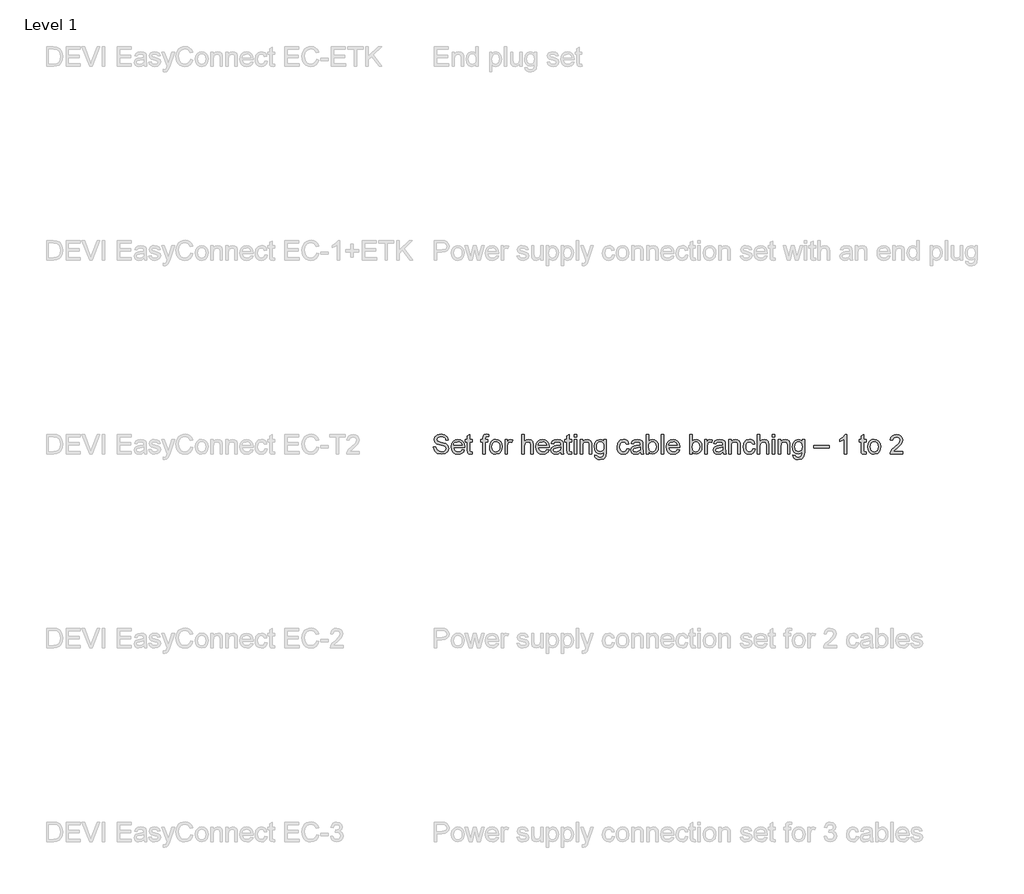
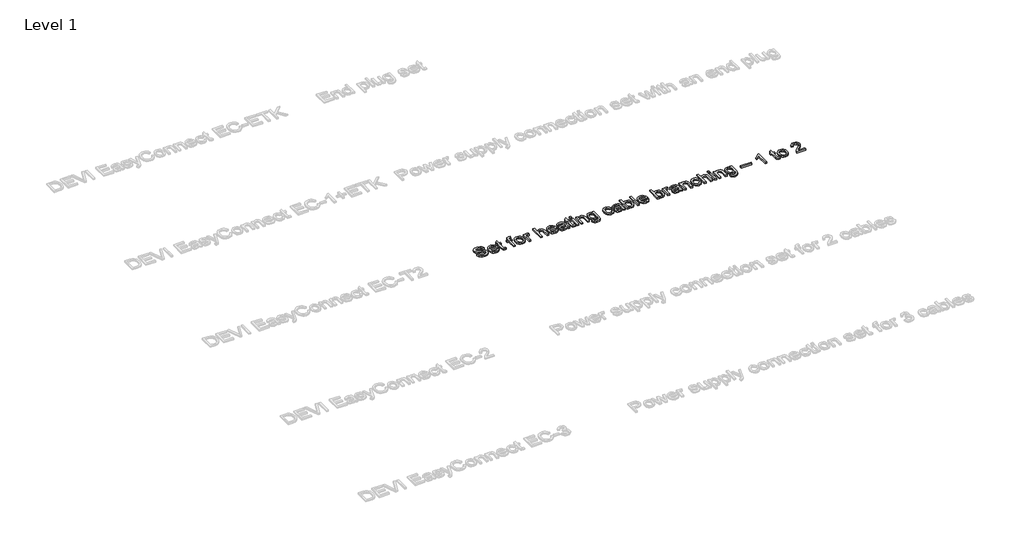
# One storey, part 6 of 11: 1 proxy.
"""IFC4 building model written with IfcOpenShell, lengths in millimetres."""

import ifcopenshell
import ifcopenshell.guid

model = None  # the IFC model being written
_history = None  # IfcOwnerHistory: only IFC2X3 demands one
_inside = {}  # id of a spatial element -> (the spatial element, [elements in it])
_under = {}  # id of a project, library or spatial element -> (it, [spatial elements below it])
_declared = {}  # id of a project -> (the project, [libraries it declares])
_typed = {}  # id of a type object -> (the type object, [elements of that type])
_made_of = {}  # id of a material, layer set ... -> (it, [elements and type objects made of it])


def new_model(schema):
    """Start an empty IFC model of exactly this schema.

    Asked for "IFC4X3", IfcOpenShell would pick the latest addendum, in which some entities
    have other attributes; the version numbers below select the first issue.
    IFC2X3 requires an IfcOwnerHistory on every rooted entity: one is made here for all.
    """
    global model, _history
    if schema == "IFC4X3":
        model = ifcopenshell.file(schema_version=(4, 3, 0, 0))
    else:
        model = ifcopenshell.file(schema=schema)
    _inside.clear()
    _under.clear()
    _declared.clear()
    _typed.clear()
    _made_of.clear()
    _history = None
    if model.schema == "IFC2X3":
        org = make("IfcOrganization", Name="unknown")
        user = make(
            "IfcPersonAndOrganization",
            ThePerson=make("IfcPerson", FamilyName="unknown"),
            TheOrganization=org,
        )
        app = make(
            "IfcApplication",
            ApplicationDeveloper=org,
            Version="unknown",
            ApplicationFullName="unknown",
            ApplicationIdentifier="unknown",
        )
        _history = make(
            "IfcOwnerHistory",
            OwningUser=user,
            OwningApplication=app,
            ChangeAction="ADDED",
            CreationDate=0,
        )
    return model


def make(cls, **values):
    """One entity of the class cls with the attributes given. An attribute that is None is left unset."""
    return model.create_entity(
        cls, **{name: value for name, value in values.items() if value is not None}
    )


def rooted(cls, **values):
    """An entity with a GlobalId (a new one), such as an element, a storey or a relation."""
    return make(cls, GlobalId=ifcopenshell.guid.new(), OwnerHistory=_history, **values)


def si_unit(unit_type, name, prefix=None):
    """IfcSIUnit, for example si_unit("LENGTHUNIT", "METRE", prefix="MILLI")."""
    return make("IfcSIUnit", UnitType=unit_type, Prefix=prefix, Name=name)


def assignment(units):
    """IfcUnitAssignment: the units of a project."""
    return None if units is None else make("IfcUnitAssignment", Units=units)


def point(xyz):
    """IfcCartesianPoint."""
    return None if xyz is None else make("IfcCartesianPoint", Coordinates=xyz)


def direction(xyz):
    """IfcDirection."""
    return None if xyz is None else make("IfcDirection", DirectionRatios=xyz)


def frame(location, z_axis=None, x_axis=None):
    """IfcAxis2Placement3D, a coordinate frame: its origin and axes. An axis left out is left unset."""
    return make(
        "IfcAxis2Placement3D",
        Location=point(location),
        Axis=direction(z_axis),
        RefDirection=direction(x_axis),
    )


def origin():
    """The frame at (0, 0, 0) with its axes left unset."""
    return frame((0.0, 0.0, 0.0))


def origin_with_axes():
    """The frame at (0, 0, 0) with the z axis (0, 0, 1) and the x axis (1, 0, 0) written out."""
    return frame((0.0, 0.0, 0.0), z_axis=(0.0, 0.0, 1.0), x_axis=(1.0, 0.0, 0.0))


def place(relative_to, where):
    """IfcLocalPlacement: puts the frame where relative to a parent placement (None: the world)."""
    return make(
        "IfcLocalPlacement", PlacementRelTo=relative_to, RelativePlacement=where
    )


def context(
    kind, dimensions, precision=None, world=None, true_north=None, identifier=None
):
    """IfcGeometricRepresentationContext, for example the 3D "Model" context."""
    return make(
        "IfcGeometricRepresentationContext",
        ContextIdentifier=identifier,
        ContextType=kind,
        CoordinateSpaceDimension=dimensions,
        Precision=precision,
        WorldCoordinateSystem=world,
        TrueNorth=true_north,
    )


def project(units=None, contexts=None):
    """IfcProject with its units and contexts."""
    return rooted(
        "IfcProject",
        Name="project",
        RepresentationContexts=contexts,
        UnitsInContext=assignment(units),
    )


def spatial(cls, under=None, at=None, **own):
    """A site, building, storey or space (cls), placed at a placement, below another one or the project."""
    s = rooted(cls, ObjectPlacement=at, **own)
    if under is not None:
        _under.setdefault(under.id(), (under, []))[1].append(s)
    return s


def polyline(points):
    """IfcPolyline through the points."""
    return make("IfcPolyline", Points=[point(p) for p in points])


def outline(outer, holes=None, kind="AREA"):
    """IfcArbitraryClosedProfileDef: a profile drawn as a closed curve; with holes, ...WithVoids."""
    if holes is None:
        return make("IfcArbitraryClosedProfileDef", ProfileType=kind, OuterCurve=outer)
    return make(
        "IfcArbitraryProfileDefWithVoids",
        ProfileType=kind,
        OuterCurve=outer,
        InnerCurves=holes,
    )


def extrude(swept, where, along, depth):
    """IfcExtrudedAreaSolid: the profile swept, set in the frame where, extruded along a direction by depth."""
    return make(
        "IfcExtrudedAreaSolid",
        SweptArea=swept,
        Position=where,
        ExtrudedDirection=direction(along),
        Depth=depth,
    )


def shape(context_of_items, identifier, shape_type, items):
    """IfcShapeRepresentation: the items that make up one representation, for example the "Body"."""
    return make(
        "IfcShapeRepresentation",
        ContextOfItems=context_of_items,
        RepresentationIdentifier=identifier,
        RepresentationType=shape_type,
        Items=items,
    )


def made_of(thing, what):
    """Note that an element or type object is made of a material, layer set ...; save() writes the relation."""
    if what is not None:
        _made_of.setdefault(what.id(), (what, []))[1].append(thing)
    return thing


def element(
    cls,
    number,
    at=None,
    inside=None,
    cuts=None,
    type_object=None,
    material=None,
    context=None,
    identifier="Body",
    shape_type=None,
    held_by="IfcProductDefinitionShape",
    body=None,
    shapes=None,
    **own,
):
    """One element of the class cls, such as IfcWall. Its Tag is "e" and its number.

    at: its placement. inside: the storey or other place that contains it. cuts: it is an
    opening in that element (IfcRelVoidsElement). A single representation is given by context,
    identifier, shape_type and body (its items); several are given by shapes. held_by: the class
    of the entity that holds the representations. save() writes the other relations.
    """
    e = rooted(cls, Tag="e%d" % number, ObjectPlacement=at, **own)
    if body is not None:
        shapes = [shape(context, identifier, shape_type, body)]
    if shapes is not None:
        e.Representation = make(held_by, Representations=shapes)
    if inside is not None:
        _inside.setdefault(inside.id(), (inside, []))[1].append(e)
    if cuts is not None:
        rooted(
            "IfcRelVoidsElement", RelatingBuildingElement=cuts, RelatedOpeningElement=e
        )
    if type_object is not None:
        _typed.setdefault(type_object.id(), (type_object, []))[1].append(e)
    return made_of(e, material)


def aggregate(whole, parts):
    """IfcRelAggregates: a whole, such as a stair, and the parts it consists of."""
    return rooted("IfcRelAggregates", RelatingObject=whole, RelatedObjects=parts)


def save(model, path):
    """Write the relations noted so far, then the file.

    IfcRelAggregates (storeys below a building ...), IfcRelContainedInSpatialStructure (elements
    in a storey), IfcRelDefinesByType, IfcRelAssociatesMaterial and IfcRelDeclares: one each for
    every whole, place, type object, material and project.
    """
    for whole, parts in _under.values():
        aggregate(whole, parts)
    for where, things in _inside.values():
        rooted(
            "IfcRelContainedInSpatialStructure",
            RelatedElements=things,
            RelatingStructure=where,
        )
    for kind, things in _typed.values():
        rooted("IfcRelDefinesByType", RelatedObjects=things, RelatingType=kind)
    for what, things in _made_of.values():
        rooted("IfcRelAssociatesMaterial", RelatedObjects=things, RelatingMaterial=what)
    for by, libraries in _declared.values():
        rooted("IfcRelDeclares", RelatingContext=by, RelatedDefinitions=libraries)
    model.write(path)


model = new_model("IFC4")

# Units and contexts
model_context = context("Model", 3, world=origin())
ifc_project = project(units=[si_unit("LENGTHUNIT", "METRE", prefix="MILLI")], contexts=[model_context])

# Site, building, storey
site = spatial("IfcSite", under=ifc_project)
building = spatial("IfcBuilding", under=site)
storey = spatial("IfcBuildingStorey", under=building, Name="Level 1", Elevation=0.0)

# Proxy
placement = place(None, origin())
element("IfcBuildingElementProxy", 1, Name="100mm Arial", ObjectType="100mm Arial", at=placement, inside=storey, context=model_context, shape_type="SweptSolid", body=[
    extrude(outline(polyline([(4540.2455858, 2551.2660062), (4552.8026246, 2551.2660062), (4556.8493265, 2538.6967047), (4566.7330895, 2530.7504536), (4581.7917258, 2527.7215585), (4594.9128503, 2530.0146896), (4603.3863989, 2536.3177345), (4606.1700394, 2544.7422322), (4604.0853747, 2552.5781187), (4595.5505124, 2558.2802896), (4577.2667773, 2563.0750183), (4557.5850905, 2569.2676985), (4546.9042499, 2578.6119012), (4543.3848455, 2591.0953636), (4547.7381158, 2605.3078713), (4560.4545701, 2615.3387871), (4579.069399, 2618.7600896), (4598.9350268, 2615.1793715), (4612.1787786, 2604.6579465), (4617.1574483, 2588.9371225), (4604.6004095, 2588.9371225), (4602.2950157, 2596.4296525), (4597.4880243, 2601.8375178), (4579.5599084, 2606.2030508), (4561.5827415, 2601.8865688), (4555.9418843, 2591.4632456), (4559.9395353, 2582.756705), (4580.4428252, 2575.7424216), (4602.6628977, 2569.4393768), (4614.8152662, 2559.2613083), (4618.7270781, 2545.0610632), (4614.226655, 2530.0392151), (4601.2772088, 2519.0763316), (4582.2822351, 2515.1645198), (4559.8536962, 2519.3829), (4545.6657139, 2532.0870915), (4540.2455858, 2551.2660062)])), origin_with_axes(), (0.0, 0.0, 1.0), 10.0),
    extrude(outline(polyline([(4687.6436386, 2538.7089675), (4699.9554227, 2537.1393376), (4695.5193789, 2527.86258), (4688.4407162, 2520.9280044), (4678.87885, 2516.6053909), (4666.9931959, 2515.1645198), (4652.259522, 2517.6507889), (4640.9226252, 2525.1095964), (4633.693744, 2537.0565642), (4631.2841169, 2553.0073143), (4633.7182694, 2569.4945591), (4641.020727, 2581.8247373), (4652.2043397, 2589.513471), (4666.2819574, 2592.0763822), (4679.9211823, 2589.5196024), (4690.8196864, 2581.8492628), (4697.9657942, 2569.54361), (4700.3478301, 2553.0808907), (4700.2742537, 2549.6963764), (4643.8411557, 2549.6963764), (4646.0147251, 2540.2969914), (4651.0639055, 2533.3869413), (4658.3510347, 2529.1379042), (4667.2384506, 2527.7215585), (4679.5502347, 2530.3457834), (4687.6436386, 2538.7089675)]), holes=[polyline([(4643.8411557, 2562.2534151), (4687.7907914, 2562.2534151), (4682.7630707, 2573.6332315), (4675.442219, 2578.0478155), (4666.2329064, 2579.5193435), (4650.7695999, 2574.8227166), (4645.9043605, 2569.3320779), (4643.8411557, 2562.2534151)])]), origin_with_axes(), (0.0, 0.0, 1.0), 10.0),
    extrude(outline(polyline([(4739.5885763, 2527.2065237), (4741.1582061, 2516.3662676), (4731.7649525, 2515.1645198), (4721.2435274, 2517.2491844), (4715.9950776, 2522.7183634), (4714.4744987, 2536.9676593), (4714.4744987, 2577.9497136), (4705.0567197, 2577.9497136), (4705.0567197, 2590.5067524), (4714.4744987, 2590.5067524), (4714.4744987, 2608.4348683), (4727.0315375, 2615.8170336), (4727.0315375, 2590.5067524), (4739.5885763, 2590.5067524), (4739.5885763, 2577.9497136), (4727.0315375, 2577.9497136), (4727.0315375, 2537.3355413), (4727.6937251, 2530.8608182), (4729.8397034, 2528.5676871), (4734.1193973, 2527.7215585), (4739.5885763, 2527.2065237)])), origin_with_axes(), (0.0, 0.0, 1.0), 10.0),
    extrude(outline(polyline([(4794.5256209, 2516.7341496), (4794.5256209, 2577.9497136), (4783.538212, 2577.9497136), (4783.538212, 2590.5067524), (4794.5256209, 2590.5067524), (4794.5256209, 2597.9379687), (4795.8499961, 2608.4103428), (4802.2756682, 2615.89061), (4814.9308089, 2618.7600896), (4826.3842017, 2617.3866635), (4824.5447917, 2605.6144396), (4817.3097791, 2606.2030508), (4809.4003162, 2604.1183862), (4807.0826597, 2596.3438134), (4807.0826597, 2590.5067524), (4821.2093283, 2590.5067524), (4821.2093283, 2577.9497136), (4807.0826597, 2577.9497136), (4807.0826597, 2516.7341496), (4794.5256209, 2516.7341496)])), origin_with_axes(), (0.0, 0.0, 1.0), 10.0),
    extrude(outline(polyline([(4829.0574775, 2553.620451), (4831.7736729, 2571.4075455), (4839.9222591, 2583.9094019), (4849.989963, 2590.0346371), (4862.0442297, 2592.0763822), (4875.2358649, 2589.5901131), (4885.7726184, 2582.1313056), (4892.6796029, 2570.2885711), (4894.981931, 2554.6505206), (4890.9107036, 2532.3078207), (4879.0526406, 2519.6649428), (4862.0442297, 2515.1645198), (4848.693179, 2517.6415919), (4838.1686882, 2525.0728082), (4831.3352802, 2537.1638631), (4829.0574775, 2553.620451)]), holes=[polyline([(4841.6145163, 2553.6449765), (4843.0676501, 2542.2804885), (4847.4270518, 2534.1840189), (4853.987614, 2529.3371736), (4862.0442297, 2527.7215585), (4870.0640572, 2529.3463707), (4876.6123567, 2534.2208071), (4880.9717584, 2542.4245756), (4882.4248923, 2554.0373839), (4880.9625613, 2565.0707781), (4876.5755685, 2573.0568831), (4870.018072, 2577.9037284), (4862.0442297, 2579.5193435), (4853.987614, 2577.9098597), (4847.4270518, 2573.0814085), (4843.0676501, 2565.0033331), (4841.6145163, 2553.6449765)])]), origin_with_axes(), (0.0, 0.0, 1.0), 10.0),
    extrude(outline(polyline([(4909.1085996, 2516.7341496), (4909.1085996, 2590.5067524), (4920.0960086, 2590.5067524), (4920.0960086, 2579.5929199), (4927.8951069, 2589.6483611), (4935.7432561, 2592.0763822), (4948.3493458, 2588.2013585), (4944.1554911, 2576.9441695), (4935.3263232, 2579.5193435), (4928.2262007, 2577.0422714), (4923.7012521, 2570.1751408), (4921.6656384, 2555.5089119), (4921.6656384, 2516.7341496), (4909.1085996, 2516.7341496)])), origin_with_axes(), (0.0, 0.0, 1.0), 10.0),
    extrude(outline(polyline([(4995.4382412, 2516.7341496), (4995.4382412, 2617.1904598), (5007.99528, 2617.1904598), (5007.99528, 2580.2551074), (5017.7870724, 2589.1210635), (5029.8474705, 2592.0763822), (5043.9496136, 2588.8512834), (5052.5090014, 2579.9362764), (5055.0841753, 2563.4306375), (5055.0841753, 2516.7341496), (5042.5271366, 2516.7341496), (5042.5271366, 2562.1307878), (5038.5294856, 2575.3745396), (5027.1987201, 2579.5193435), (5016.910287, 2576.7234403), (5010.0431564, 2569.1450712), (5007.99528, 2555.9258448), (5007.99528, 2516.7341496), (4995.4382412, 2516.7341496)])), origin_with_axes(), (0.0, 0.0, 1.0), 10.0),
    extrude(outline(polyline([(5124.0007358, 2538.7089675), (5136.3125199, 2537.1393376), (5131.8764761, 2527.86258), (5124.7978134, 2520.9280044), (5115.2359472, 2516.6053909), (5103.3502931, 2515.1645198), (5088.6166192, 2517.6507889), (5077.2797224, 2525.1095964), (5070.0508412, 2537.0565642), (5067.6412141, 2553.0073143), (5070.0753666, 2569.4945591), (5077.3778242, 2581.8247373), (5088.5614369, 2589.513471), (5102.6390546, 2592.0763822), (5116.2782795, 2589.5196024), (5127.1767837, 2581.8492628), (5134.3228914, 2569.54361), (5136.7049273, 2553.0808907), (5136.6313509, 2549.6963764), (5080.1982529, 2549.6963764), (5082.3718223, 2540.2969914), (5087.4210027, 2533.3869413), (5094.7081319, 2529.1379042), (5103.5955478, 2527.7215585), (5115.9073319, 2530.3457834), (5124.0007358, 2538.7089675)]), holes=[polyline([(5080.1982529, 2562.2534151), (5124.1478886, 2562.2534151), (5119.120168, 2573.6332315), (5111.7993163, 2578.0478155), (5102.5900036, 2579.5193435), (5087.1266971, 2574.8227166), (5082.2614577, 2569.3320779), (5080.1982529, 2562.2534151)])]), origin_with_axes(), (0.0, 0.0, 1.0), 10.0),
    extrude(outline(polyline([(5196.3508615, 2526.1519287), (5184.1739674, 2517.6415919), (5170.7217492, 2515.1645198), (5160.2279152, 2516.6544418), (5152.4870649, 2521.1242081), (5147.713796, 2527.9116309), (5146.1227064, 2536.3545227), (5148.5262021, 2546.2873366), (5154.8415097, 2553.4978237), (5163.6338894, 2557.618102), (5174.498671, 2559.5065629), (5196.2772851, 2563.823045), (5196.3508615, 2566.6189482), (5192.8927707, 2575.8895744), (5179.0113568, 2579.5193435), (5166.3071652, 2577.103585), (5160.249375, 2568.5319345), (5147.6923363, 2570.1015644), (5153.124727, 2582.3642975), (5164.063085, 2589.5502592), (5180.6300376, 2592.0763822), (5195.8480894, 2589.8445648), (5204.4442654, 2584.2404957), (5208.2947636, 2575.7178962), (5208.9079003, 2564.7304872), (5208.9079003, 2549.1077652), (5209.5455624, 2527.2923629), (5212.0471599, 2516.7341496), (5199.4901212, 2516.7341496), (5196.3508615, 2526.1519287)]), holes=[polyline([(5196.3508615, 2551.2660062), (5176.0928263, 2547.415508), (5165.2893584, 2545.3798943), (5160.3965278, 2542.0689563), (5158.6797452, 2537.2374395), (5162.4198788, 2530.4438853), (5173.395025, 2527.7215585), (5186.0992166, 2530.7259282), (5194.2907223, 2537.9977289), (5196.2772851, 2547.7098136), (5196.3508615, 2551.2660062)])]), origin_with_axes(), (0.0, 0.0, 1.0), 10.0),
    extrude(outline(polyline([(5252.8575359, 2527.2065237), (5254.4271658, 2516.3662676), (5245.0339122, 2515.1645198), (5234.5124871, 2517.2491844), (5229.2640373, 2522.7183634), (5227.7434584, 2536.9676593), (5227.7434584, 2577.9497136), (5218.3256793, 2577.9497136), (5218.3256793, 2590.5067524), (5227.7434584, 2590.5067524), (5227.7434584, 2608.4348683), (5240.3004972, 2615.8170336), (5240.3004972, 2590.5067524), (5252.8575359, 2590.5067524), (5252.8575359, 2577.9497136), (5240.3004972, 2577.9497136), (5240.3004972, 2537.3355413), (5240.9626848, 2530.8608182), (5243.1086631, 2528.5676871), (5247.3883569, 2527.7215585), (5252.8575359, 2527.2065237)])), origin_with_axes(), (0.0, 0.0, 1.0), 10.0),
    extrude(outline(polyline([(5265.4145747, 2604.633421), (5265.4145747, 2617.1904598), (5277.9716135, 2617.1904598), (5277.9716135, 2604.633421), (5265.4145747, 2604.633421)])), origin_with_axes(), (0.0, 0.0, 1.0), 10.0),
    extrude(outline(polyline([(5265.4145747, 2516.7341496), (5265.4145747, 2590.5067524), (5277.9716135, 2590.5067524), (5277.9716135, 2516.7341496), (5265.4145747, 2516.7341496)])), origin_with_axes(), (0.0, 0.0, 1.0), 10.0),
    extrude(outline(polyline([(5296.8071716, 2516.7341496), (5296.8071716, 2590.5067524), (5309.3642104, 2590.5067524), (5309.3642104, 2580.2060565), (5318.9659305, 2589.1088008), (5332.0747922, 2592.0763822), (5343.9328552, 2589.6851493), (5352.0262591, 2583.4066299), (5355.7909182, 2574.1727918), (5356.4531058, 2562.0326859), (5356.4531058, 2516.7341496), (5343.896067, 2516.7341496), (5343.896067, 2560.3404288), (5342.4490645, 2571.450465), (5337.3355048, 2577.3243142), (5328.7148033, 2579.5193435), (5315.0909068, 2574.5897247), (5310.7958845, 2567.4466826), (5309.3642104, 2555.8767939), (5309.3642104, 2516.7341496), (5296.8071716, 2516.7341496)])), origin_with_axes(), (0.0, 0.0, 1.0), 10.0),
    extrude(outline(polyline([(5370.5797744, 2510.4556302), (5383.1368132, 2508.8860004), (5387.2080406, 2502.2641245), (5399.3971974, 2499.4682213), (5412.2485417, 2502.6320065), (5418.3799083, 2511.5102253), (5419.2382996, 2526.1519287), (5410.396869, 2519.0885944), (5399.6179266, 2516.7341496), (5386.671546, 2519.4748705), (5377.0177093, 2527.6970331), (5371.0120357, 2539.7512998), (5369.0101446, 2553.988333), (5372.6031254, 2573.4492905), (5383.0019231, 2587.2203399), (5399.0047899, 2592.0763822), (5410.2067966, 2589.32953), (5419.2382996, 2581.0889733), (5419.2382996, 2590.5067524), (5431.7953384, 2590.5067524), (5431.7953384, 2526.8141163), (5428.3617731, 2502.42354), (5417.4847288, 2491.0805118), (5399.1519427, 2486.9111825), (5387.4686237, 2488.3796448), (5378.2685081, 2492.7850317), (5372.3670678, 2500.1396059), (5370.5797744, 2510.4556302)]), holes=[polyline([(5381.5671833, 2554.8467243), (5382.9068869, 2543.3289522), (5386.9259977, 2535.4102922), (5392.9684595, 2530.8209643), (5400.378216, 2529.2911884), (5407.7327902, 2530.8117673), (5413.8059088, 2535.373504), (5417.8802019, 2543.1909964), (5419.2382996, 2554.4788423), (5417.840348, 2565.3650837), (5413.6464933, 2573.2040359), (5407.4844699, 2577.9405166), (5400.1820123, 2579.5193435), (5393.0113791, 2577.965042), (5386.9995741, 2573.3021377), (5382.925281, 2565.5796815), (5381.5671833, 2554.8467243)])]), origin_with_axes(), (0.0, 0.0, 1.0), 10.0),
    extrude(outline(polyline([(5536.9605381, 2543.417857), (5549.5175769, 2541.8482271), (5546.0165665, 2530.6799429), (5539.4376102, 2522.2401168), (5530.3999758, 2516.933419), (5519.5229315, 2515.1645198), (5506.1657494, 2517.6323948), (5495.7209664, 2525.03602), (5488.9795289, 2537.0504328), (5486.732383, 2553.3506709), (5490.5706185, 2574.20958), (5502.2692659, 2587.6127473), (5519.3512532, 2592.0763822), (5529.9615831, 2590.5435406), (5538.4443288, 2585.9450156), (5544.5297101, 2578.5260621), (5547.947947, 2568.5319345), (5535.3909082, 2566.9623047), (5529.56611, 2576.367821), (5519.4493551, 2579.5193435), (5511.3344914, 2577.9681077), (5504.8934908, 2573.3144005), (5500.690439, 2565.3068357), (5499.2894218, 2553.6940274), (5500.6597822, 2541.9248692), (5504.7708635, 2533.8897133), (5511.0953681, 2529.2635972), (5519.1059986, 2527.7215585), (5530.9395361, 2531.5720567), (5536.9605381, 2543.417857)])), origin_with_axes(), (0.0, 0.0, 1.0), 10.0),
    extrude(outline(polyline([(5607.5938812, 2526.1519287), (5595.4169871, 2517.6415919), (5581.9647688, 2515.1645198), (5571.4709349, 2516.6544418), (5563.7300846, 2521.1242081), (5558.9568157, 2527.9116309), (5557.3657261, 2536.3545227), (5559.7692218, 2546.2873366), (5566.0845294, 2553.4978237), (5574.8769091, 2557.618102), (5585.7416906, 2559.5065629), (5607.5203048, 2563.823045), (5607.5938812, 2566.6189482), (5604.1357904, 2575.8895744), (5590.2543765, 2579.5193435), (5577.5501849, 2577.103585), (5571.4923947, 2568.5319345), (5558.9353559, 2570.1015644), (5564.3677467, 2582.3642975), (5575.3061047, 2589.5502592), (5591.8730572, 2592.0763822), (5607.0911091, 2589.8445648), (5615.6872851, 2584.2404957), (5619.5377833, 2575.7178962), (5620.1509199, 2564.7304872), (5620.1509199, 2549.1077652), (5620.7885821, 2527.2923629), (5623.2901796, 2516.7341496), (5610.7331408, 2516.7341496), (5607.5938812, 2526.1519287)]), holes=[polyline([(5607.5938812, 2551.2660062), (5587.335846, 2547.415508), (5576.532378, 2545.3798943), (5571.6395475, 2542.0689563), (5569.9227649, 2537.2374395), (5573.6628985, 2530.4438853), (5584.6380447, 2527.7215585), (5597.3422362, 2530.7259282), (5605.533742, 2537.9977289), (5607.5203048, 2547.7098136), (5607.5938812, 2551.2660062)])]), origin_with_axes(), (0.0, 0.0, 1.0), 10.0),
    extrude(outline(polyline([(5649.973887, 2516.7341496), (5637.4168482, 2516.7341496), (5637.4168482, 2617.1904598), (5649.973887, 2617.1904598), (5649.973887, 2579.9362764), (5658.7662667, 2589.0413558), (5669.6923619, 2592.0763822), (5682.2739262, 2589.3417927), (5692.0350618, 2581.653059), (5698.0315383, 2569.6968942), (5700.2020421, 2554.724097), (5697.9548962, 2537.9609407), (5691.2134587, 2525.4897411), (5681.3204987, 2517.7458251), (5669.6187855, 2515.1645198), (5658.453567, 2518.4938518), (5649.973887, 2528.481848), (5649.973887, 2516.7341496)]), holes=[polyline([(5649.973887, 2554.1354858), (5653.4074523, 2536.5752519), (5659.9864086, 2529.9349819), (5668.539665, 2527.7215585), (5675.7869403, 2529.352502), (5681.9796206, 2534.2453326), (5686.2286576, 2542.3693933), (5687.6450033, 2553.6940274), (5686.2869056, 2565.1842084), (5682.2126125, 2573.2162986), (5676.2130703, 2577.9435822), (5669.0792253, 2579.5193435), (5661.83195, 2577.8883999), (5655.6392697, 2572.9955694), (5651.3902327, 2565.0186615), (5649.973887, 2554.1354858)])]), origin_with_axes(), (0.0, 0.0, 1.0), 10.0),
    extrude(outline(polyline([(5714.3287107, 2516.7341496), (5714.3287107, 2617.1904598), (5726.8857495, 2617.1904598), (5726.8857495, 2516.7341496), (5714.3287107, 2516.7341496)])), origin_with_axes(), (0.0, 0.0, 1.0), 10.0),
    extrude(outline(polyline([(5797.3719397, 2538.7089675), (5809.6837238, 2537.1393376), (5805.2476801, 2527.86258), (5798.1690174, 2520.9280044), (5788.6071512, 2516.6053909), (5776.7214971, 2515.1645198), (5761.9878232, 2517.6507889), (5750.6509263, 2525.1095964), (5743.4220451, 2537.0565642), (5741.0124181, 2553.0073143), (5743.4465706, 2569.4945591), (5750.7490282, 2581.8247373), (5761.9326409, 2589.513471), (5776.0102585, 2592.0763822), (5789.6494835, 2589.5196024), (5800.5479876, 2581.8492628), (5807.6940954, 2569.54361), (5810.0761313, 2553.0808907), (5810.0025549, 2549.6963764), (5753.5694568, 2549.6963764), (5755.7430263, 2540.2969914), (5760.7922067, 2533.3869413), (5768.0793359, 2529.1379042), (5776.9667517, 2527.7215585), (5789.2785358, 2530.3457834), (5797.3719397, 2538.7089675)]), holes=[polyline([(5753.5694568, 2562.2534151), (5797.5190925, 2562.2534151), (5792.4913719, 2573.6332315), (5785.1705202, 2578.0478155), (5775.9612076, 2579.5193435), (5760.4979011, 2574.8227166), (5755.6326617, 2569.3320779), (5753.5694568, 2562.2534151)])]), origin_with_axes(), (0.0, 0.0, 1.0), 10.0),
    extrude(outline(polyline([(5874.430955, 2516.7341496), (5861.8739162, 2516.7341496), (5861.8739162, 2617.1904598), (5874.430955, 2617.1904598), (5874.430955, 2579.9362764), (5883.2233347, 2589.0413558), (5894.1494299, 2592.0763822), (5906.7309942, 2589.3417927), (5916.4921298, 2581.653059), (5922.4886063, 2569.6968942), (5924.6591101, 2554.724097), (5922.4119642, 2537.9609407), (5915.6705267, 2525.4897411), (5905.7775667, 2517.7458251), (5894.0758535, 2515.1645198), (5882.910635, 2518.4938518), (5874.430955, 2528.481848), (5874.430955, 2516.7341496)]), holes=[polyline([(5874.430955, 2554.1354858), (5877.8645203, 2536.5752519), (5884.4434766, 2529.9349819), (5892.996733, 2527.7215585), (5900.2440083, 2529.352502), (5906.4366886, 2534.2453326), (5910.6857256, 2542.3693933), (5912.1020713, 2553.6940274), (5910.7439736, 2565.1842084), (5906.6696805, 2573.2162986), (5900.6701383, 2577.9435822), (5893.5362933, 2579.5193435), (5886.289018, 2577.8883999), (5880.0963377, 2572.9955694), (5875.8473007, 2565.0186615), (5874.430955, 2554.1354858)])]), origin_with_axes(), (0.0, 0.0, 1.0), 10.0),
    extrude(outline(polyline([(5938.7857787, 2516.7341496), (5938.7857787, 2590.5067524), (5949.7731876, 2590.5067524), (5949.7731876, 2579.5929199), (5957.5722859, 2589.6483611), (5965.4204351, 2592.0763822), (5978.0265248, 2588.2013585), (5973.8326701, 2576.9441695), (5965.0035022, 2579.5193435), (5957.9033797, 2577.0422714), (5953.3784312, 2570.1751408), (5951.3428175, 2555.5089119), (5951.3428175, 2516.7341496), (5938.7857787, 2516.7341496)])), origin_with_axes(), (0.0, 0.0, 1.0), 10.0),
    extrude(outline(polyline([(6032.9635694, 2526.1519287), (6020.7866754, 2517.6415919), (6007.3344571, 2515.1645198), (5996.8406232, 2516.6544418), (5989.0997729, 2521.1242081), (5984.326504, 2527.9116309), (5982.7354144, 2536.3545227), (5985.1389101, 2546.2873366), (5991.4542177, 2553.4978237), (6000.2465973, 2557.618102), (6011.1113789, 2559.5065629), (6032.889993, 2563.823045), (6032.9635694, 2566.6189482), (6029.5054787, 2575.8895744), (6015.6240647, 2579.5193435), (6002.9198732, 2577.103585), (5996.862083, 2568.5319345), (5984.3050442, 2570.1015644), (5989.737435, 2582.3642975), (6000.675793, 2589.5502592), (6017.2427455, 2592.0763822), (6032.4607974, 2589.8445648), (6041.0569733, 2584.2404957), (6044.9074716, 2575.7178962), (6045.5206082, 2564.7304872), (6045.5206082, 2549.1077652), (6046.1582703, 2527.2923629), (6048.6598679, 2516.7341496), (6036.1028291, 2516.7341496), (6032.9635694, 2526.1519287)]), holes=[polyline([(6032.9635694, 2551.2660062), (6012.7055342, 2547.415508), (6001.9020663, 2545.3798943), (5997.0092358, 2542.0689563), (5995.2924531, 2537.2374395), (5999.0325868, 2530.4438853), (6010.0077329, 2527.7215585), (6022.7119245, 2530.7259282), (6030.9034303, 2537.9977289), (6032.889993, 2547.7098136), (6032.9635694, 2551.2660062)])]), origin_with_axes(), (0.0, 0.0, 1.0), 10.0),
    extrude(outline(polyline([(6062.7865365, 2516.7341496), (6062.7865365, 2590.5067524), (6075.3435753, 2590.5067524), (6075.3435753, 2580.2060565), (6084.9452954, 2589.1088008), (6098.0541571, 2592.0763822), (6109.9122201, 2589.6851493), (6118.005624, 2583.4066299), (6121.7702831, 2574.1727918), (6122.4324707, 2562.0326859), (6122.4324707, 2516.7341496), (6109.8754319, 2516.7341496), (6109.8754319, 2560.3404288), (6108.4284294, 2571.450465), (6103.3148697, 2577.3243142), (6094.6941682, 2579.5193435), (6081.0702717, 2574.5897247), (6076.7752494, 2567.4466826), (6075.3435753, 2555.8767939), (6075.3435753, 2516.7341496), (6062.7865365, 2516.7341496)])), origin_with_axes(), (0.0, 0.0, 1.0), 10.0),
    extrude(outline(polyline([(6186.7872944, 2543.417857), (6199.3443331, 2541.8482271), (6195.8433228, 2530.6799429), (6189.2643665, 2522.2401168), (6180.2267321, 2516.933419), (6169.3496878, 2515.1645198), (6155.9925057, 2517.6323948), (6145.5477227, 2525.03602), (6138.8062851, 2537.0504328), (6136.5591393, 2553.3506709), (6140.3973748, 2574.20958), (6152.0960222, 2587.6127473), (6169.1780095, 2592.0763822), (6179.7883394, 2590.5435406), (6188.2710851, 2585.9450156), (6194.3564664, 2578.5260621), (6197.7747033, 2568.5319345), (6185.2176645, 2566.9623047), (6179.3928663, 2576.367821), (6169.2761114, 2579.5193435), (6161.1612477, 2577.9681077), (6154.7202471, 2573.3144005), (6150.5171953, 2565.3068357), (6149.1161781, 2553.6940274), (6150.4865385, 2541.9248692), (6154.5976198, 2533.8897133), (6160.9221244, 2529.2635972), (6168.9327549, 2527.7215585), (6180.7662924, 2531.5720567), (6186.7872944, 2543.417857)])), origin_with_axes(), (0.0, 0.0, 1.0), 10.0),
    extrude(outline(polyline([(6210.3317421, 2516.7341496), (6210.3317421, 2617.1904598), (6222.8887808, 2617.1904598), (6222.8887808, 2580.2551074), (6232.6805733, 2589.1210635), (6244.7409713, 2592.0763822), (6258.8431145, 2588.8512834), (6267.4025022, 2579.9362764), (6269.9776762, 2563.4306375), (6269.9776762, 2516.7341496), (6257.4206374, 2516.7341496), (6257.4206374, 2562.1307878), (6253.4229864, 2575.3745396), (6242.092221, 2579.5193435), (6231.8037878, 2576.7234403), (6224.9366573, 2569.1450712), (6222.8887808, 2555.9258448), (6222.8887808, 2516.7341496), (6210.3317421, 2516.7341496)])), origin_with_axes(), (0.0, 0.0, 1.0), 10.0),
    extrude(outline(polyline([(6287.2436045, 2604.633421), (6287.2436045, 2617.1904598), (6299.8006433, 2617.1904598), (6299.8006433, 2604.633421), (6287.2436045, 2604.633421)])), origin_with_axes(), (0.0, 0.0, 1.0), 10.0),
    extrude(outline(polyline([(6287.2436045, 2516.7341496), (6287.2436045, 2590.5067524), (6299.8006433, 2590.5067524), (6299.8006433, 2516.7341496), (6287.2436045, 2516.7341496)])), origin_with_axes(), (0.0, 0.0, 1.0), 10.0),
    extrude(outline(polyline([(6318.6362014, 2516.7341496), (6318.6362014, 2590.5067524), (6331.1932402, 2590.5067524), (6331.1932402, 2580.2060565), (6340.7949603, 2589.1088008), (6353.903822, 2592.0763822), (6365.761885, 2589.6851493), (6373.8552889, 2583.4066299), (6377.619948, 2574.1727918), (6378.2821356, 2562.0326859), (6378.2821356, 2516.7341496), (6365.7250968, 2516.7341496), (6365.7250968, 2560.3404288), (6364.2780943, 2571.450465), (6359.1645346, 2577.3243142), (6350.5438332, 2579.5193435), (6336.9199366, 2574.5897247), (6332.6249143, 2567.4466826), (6331.1932402, 2555.8767939), (6331.1932402, 2516.7341496), (6318.6362014, 2516.7341496)])), origin_with_axes(), (0.0, 0.0, 1.0), 10.0),
    extrude(outline(polyline([(6392.4088042, 2510.4556302), (6404.965843, 2508.8860004), (6409.0370704, 2502.2641245), (6421.2262272, 2499.4682213), (6434.0775715, 2502.6320065), (6440.2089381, 2511.5102253), (6441.0673294, 2526.1519287), (6432.2258988, 2519.0885944), (6421.4469564, 2516.7341496), (6408.5005758, 2519.4748705), (6398.8467391, 2527.6970331), (6392.8410655, 2539.7512998), (6390.8391744, 2553.988333), (6394.4321552, 2573.4492905), (6404.8309529, 2587.2203399), (6420.8338197, 2592.0763822), (6432.0358264, 2589.32953), (6441.0673294, 2581.0889733), (6441.0673294, 2590.5067524), (6453.6243682, 2590.5067524), (6453.6243682, 2526.8141163), (6450.1908029, 2502.42354), (6439.3137586, 2491.0805118), (6420.9809725, 2486.9111825), (6409.2976535, 2488.3796448), (6400.0975379, 2492.7850317), (6394.1960976, 2500.1396059), (6392.4088042, 2510.4556302)]), holes=[polyline([(6403.3962131, 2554.8467243), (6404.7359167, 2543.3289522), (6408.7550275, 2535.4102922), (6414.7974893, 2530.8209643), (6422.2072458, 2529.2911884), (6429.56182, 2530.8117673), (6435.6349386, 2535.373504), (6439.7092317, 2543.1909964), (6441.0673294, 2554.4788423), (6439.6693778, 2565.3650837), (6435.4755231, 2573.2040359), (6429.3134997, 2577.9405166), (6422.0110421, 2579.5193435), (6414.8404089, 2577.965042), (6408.8286039, 2573.3021377), (6404.7543108, 2565.5796815), (6403.3962131, 2554.8467243)])]), origin_with_axes(), (0.0, 0.0, 1.0), 10.0),
    extrude(outline(polyline([(6502.2828934, 2548.1267465), (6502.2828934, 2560.6837853), (6580.7643857, 2560.6837853), (6580.7643857, 2548.1267465), (6502.2828934, 2548.1267465)])), origin_with_axes(), (0.0, 0.0, 1.0), 10.0),
    extrude(outline(polyline([(6671.8029168, 2516.7341496), (6659.245878, 2516.7341496), (6659.245878, 2595.0194382), (6647.3510269, 2586.5458896), (6634.1318005, 2580.2060565), (6634.1318005, 2592.0763822), (6652.538163, 2603.8240806), (6663.7095129, 2617.1904598), (6671.8029168, 2617.1904598), (6671.8029168, 2516.7341496)])), origin_with_axes(), (0.0, 0.0, 1.0), 10.0),
    extrude(outline(polyline([(6770.6895971, 2527.2065237), (6772.259227, 2516.3662676), (6762.8659733, 2515.1645198), (6752.3445483, 2517.2491844), (6747.0960985, 2522.7183634), (6745.5755196, 2536.9676593), (6745.5755196, 2577.9497136), (6736.1577405, 2577.9497136), (6736.1577405, 2590.5067524), (6745.5755196, 2590.5067524), (6745.5755196, 2608.4348683), (6758.1325583, 2615.8170336), (6758.1325583, 2590.5067524), (6770.6895971, 2590.5067524), (6770.6895971, 2577.9497136), (6758.1325583, 2577.9497136), (6758.1325583, 2537.3355413), (6758.7947459, 2530.8608182), (6760.9407242, 2528.5676871), (6765.2204181, 2527.7215585), (6770.6895971, 2527.2065237)])), origin_with_axes(), (0.0, 0.0, 1.0), 10.0),
    extrude(outline(polyline([(6780.1073762, 2553.620451), (6782.8235716, 2571.4075455), (6790.9721578, 2583.9094019), (6801.0398617, 2590.0346371), (6813.0941284, 2592.0763822), (6826.2857636, 2589.5901131), (6836.8225171, 2582.1313056), (6843.7295016, 2570.2885711), (6846.0318297, 2554.6505206), (6841.9606023, 2532.3078207), (6830.1025393, 2519.6649428), (6813.0941284, 2515.1645198), (6799.7430777, 2517.6415919), (6789.2185869, 2525.0728082), (6782.3851789, 2537.1638631), (6780.1073762, 2553.620451)]), holes=[polyline([(6792.664415, 2553.6449765), (6794.1175488, 2542.2804885), (6798.4769505, 2534.1840189), (6805.0375127, 2529.3371736), (6813.0941284, 2527.7215585), (6821.1139559, 2529.3463707), (6827.6622554, 2534.2208071), (6832.0216571, 2542.4245756), (6833.474791, 2554.0373839), (6832.01246, 2565.0707781), (6827.6254672, 2573.0568831), (6821.0679707, 2577.9037284), (6813.0941284, 2579.5193435), (6805.0375127, 2577.9098597), (6798.4769505, 2573.0814085), (6794.1175488, 2565.0033331), (6792.664415, 2553.6449765)])]), origin_with_axes(), (0.0, 0.0, 1.0), 10.0),
    extrude(outline(polyline([(6960.6148085, 2529.2911884), (6960.6148085, 2516.7341496), (6894.6903549, 2516.7341496), (6896.0392556, 2525.3916392), (6903.6666756, 2538.7212302), (6919.3874996, 2553.2770945), (6941.0680118, 2574.1973173), (6946.4881399, 2588.4220877), (6941.3745801, 2599.9367942), (6928.0204637, 2604.633421), (6914.1022616, 2600.0471588), (6908.8170236, 2587.3674927), (6896.2599848, 2588.9371225), (6899.3042083, 2601.0833597), (6905.8862303, 2609.9554472), (6915.6626944, 2615.3817066), (6928.2902438, 2617.1904598), (6941.0097638, 2615.1793715), (6950.7678337, 2609.1461068), (6956.9758424, 2600.1329979), (6959.0451786, 2589.1823772), (6956.8133612, 2577.2752633), (6949.3944076, 2564.9634792), (6931.4049781, 2547.7588645), (6916.9594784, 2535.6800724), (6911.2940957, 2529.2911884), (6960.6148085, 2529.2911884)])), origin_with_axes(), (0.0, 0.0, 1.0), 10.0),
])

save(model, "model.ifc")
